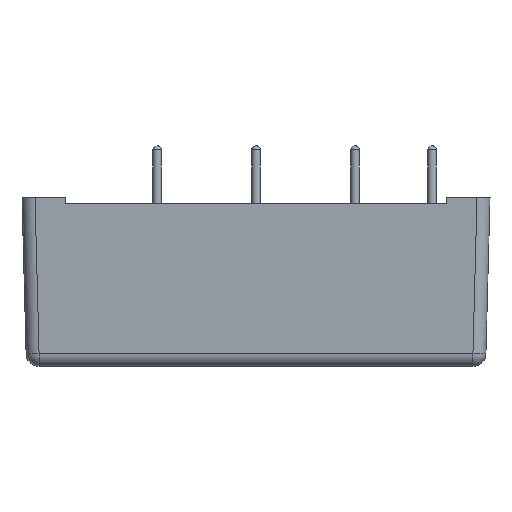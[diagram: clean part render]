
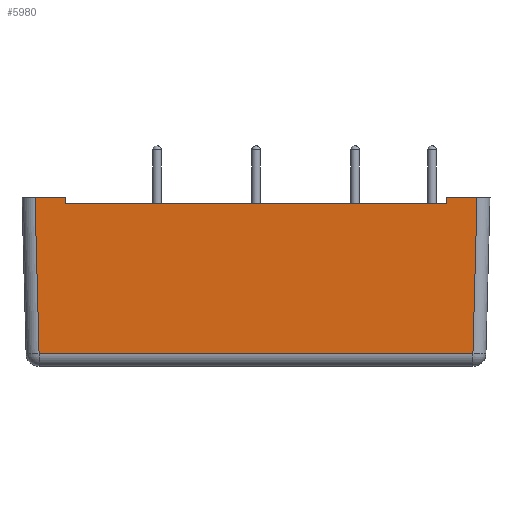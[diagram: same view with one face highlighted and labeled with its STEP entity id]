
A CAD part, front view. The second image highlights one B-rep face of the part: STEP entity #5980.
In plain terms, the highlighted planar face has unit normal (0, -1, -0.026).
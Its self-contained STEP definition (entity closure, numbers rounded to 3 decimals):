
#443=FACE_OUTER_BOUND('',#779,.T.);
#779=EDGE_LOOP('',(#4884,#4885,#4886,#4887,#4888,#4889,#4890,#4891));
#1369=LINE('',#9150,#2079);
#1424=LINE('',#9307,#2134);
#1425=LINE('',#9312,#2135);
#1432=LINE('',#9326,#2142);
#1436=LINE('',#9333,#2146);
#1437=LINE('',#9335,#2147);
#1438=LINE('',#9337,#2148);
#1439=LINE('',#9338,#2149);
#2079=VECTOR('',#7516,50.093);
#2134=VECTOR('',#7673,18.052);
#2135=VECTOR('',#7678,18.052);
#2142=VECTOR('',#7689,3.519);
#2146=VECTOR('',#7695,3.519);
#2147=VECTOR('',#7696,0.7);
#2148=VECTOR('',#7697,44.);
#2149=VECTOR('',#7698,0.7);
#2678=VERTEX_POINT('',#9143);
#2680=VERTEX_POINT('',#9148);
#2730=VERTEX_POINT('',#9303);
#2733=VERTEX_POINT('',#9310);
#2738=VERTEX_POINT('',#9325);
#2740=VERTEX_POINT('',#9332);
#2741=VERTEX_POINT('',#9334);
#2742=VERTEX_POINT('',#9336);
#3394=EDGE_CURVE('',#2680,#2678,#1369,.T.);
#3473=EDGE_CURVE('',#2678,#2730,#1424,.T.);
#3475=EDGE_CURVE('',#2733,#2680,#1425,.T.);
#3482=EDGE_CURVE('',#2738,#2730,#1432,.T.);
#3486=EDGE_CURVE('',#2733,#2740,#1436,.T.);
#3487=EDGE_CURVE('',#2741,#2740,#1437,.F.);
#3488=EDGE_CURVE('',#2741,#2742,#1438,.T.);
#3489=EDGE_CURVE('',#2742,#2738,#1439,.T.);
#4884=ORIENTED_EDGE('',*,*,#3473,.F.);
#4885=ORIENTED_EDGE('',*,*,#3394,.F.);
#4886=ORIENTED_EDGE('',*,*,#3475,.F.);
#4887=ORIENTED_EDGE('',*,*,#3486,.T.);
#4888=ORIENTED_EDGE('',*,*,#3487,.F.);
#4889=ORIENTED_EDGE('',*,*,#3488,.T.);
#4890=ORIENTED_EDGE('',*,*,#3489,.T.);
#4891=ORIENTED_EDGE('',*,*,#3482,.T.);
#5383=PLANE('',#6370);
#5980=ADVANCED_FACE('',(#443),#5383,.T.);
#6370=AXIS2_PLACEMENT_3D('',#9331,#7693,#7694);
#7516=DIRECTION('',(-1.,0.,0.));
#7673=DIRECTION('',(-0.026,-0.026,0.999));
#7678=DIRECTION('',(-0.026,0.026,-0.999));
#7689=DIRECTION('',(-1.,0.,0.));
#7693=DIRECTION('center_axis',(0.,-1.,
-0.026));
#7694=DIRECTION('ref_axis',(0.,0.026,-1.));
#7695=DIRECTION('',(-1.,0.,0.));
#7696=DIRECTION('',(0.,0.026,-1.));
#7697=DIRECTION('',(-1.,0.,0.));
#7698=DIRECTION('',(0.,-0.026,1.));
#9143=CARTESIAN_POINT('',(-25.046,-36.546,1.461));
#9148=CARTESIAN_POINT('',(25.046,-36.546,1.461));
#9150=CARTESIAN_POINT('',(13.5,-36.546,1.461));
#9303=CARTESIAN_POINT('',(-25.519,-37.018,19.5));
#9307=CARTESIAN_POINT('',(-24.991,-36.491,-0.648));
#9310=CARTESIAN_POINT('',(25.519,-37.018,19.5));
#9312=CARTESIAN_POINT('',(24.984,-36.484,-0.909));
#9325=CARTESIAN_POINT('',(-22.,-37.018,19.5));
#9326=CARTESIAN_POINT('',(-23.756,-37.018,19.5));
#9331=CARTESIAN_POINT('Origin',(27.,-36.508,0.006));
#9332=CARTESIAN_POINT('',(22.,-37.018,19.5));
#9333=CARTESIAN_POINT('',(26.256,-37.018,19.5));
#9334=CARTESIAN_POINT('',(22.,-37.,18.8));
#9335=CARTESIAN_POINT('',(22.,-37.,18.8));
#9336=CARTESIAN_POINT('',(-22.,-37.,18.8));
#9337=CARTESIAN_POINT('',(27.,-37.,18.8));
#9338=CARTESIAN_POINT('',(-22.,-37.,18.793));
